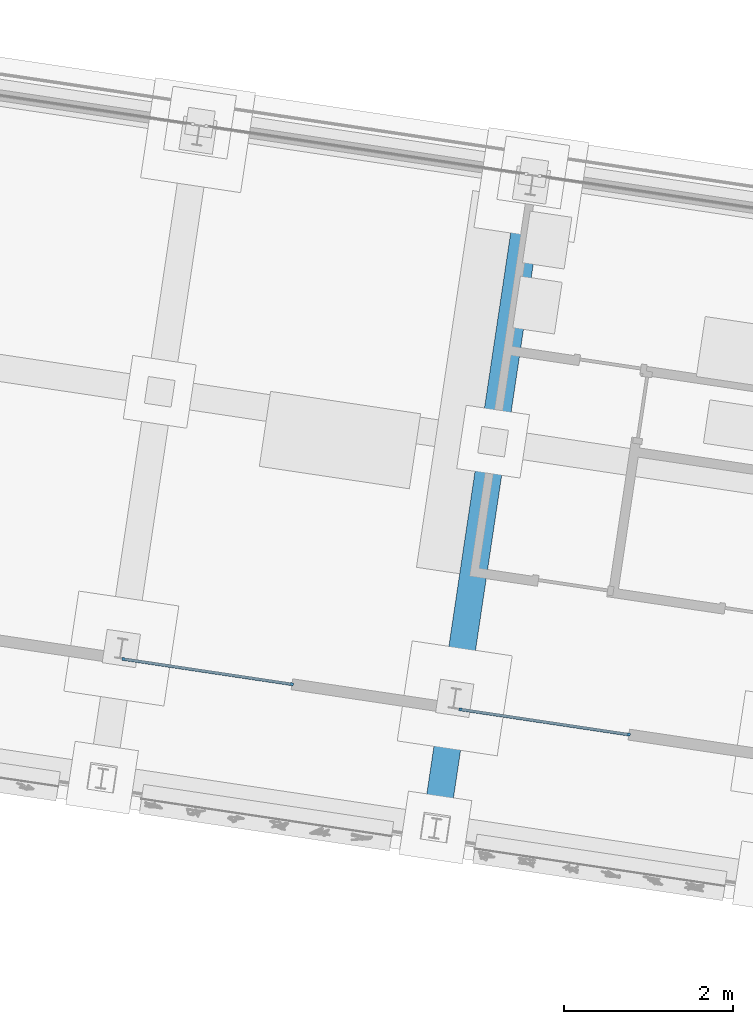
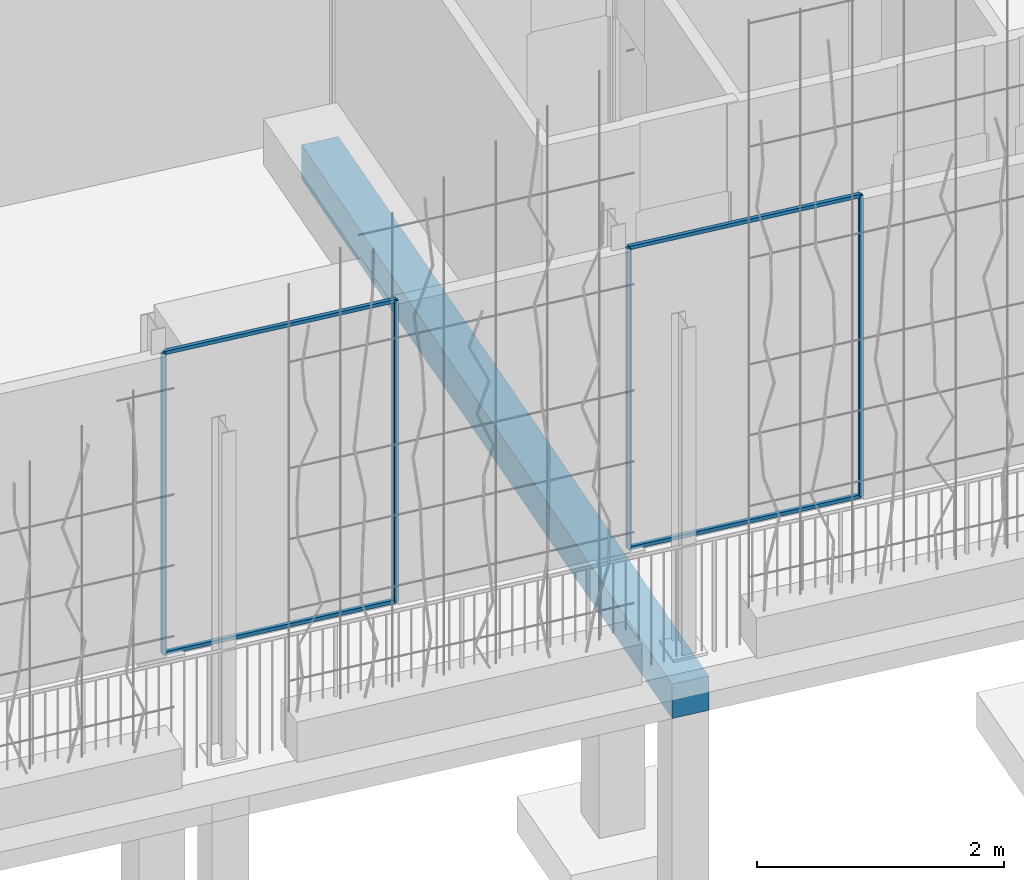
# One storey, part 65 of 143: 8 members, 1 beam, 1 element without a shape of its own.
"""IFC4 building model written with IfcOpenShell, lengths in metres."""

import ifcopenshell
import ifcopenshell.guid

model = None  # the IFC model being written
_history = None  # IfcOwnerHistory: only IFC2X3 demands one
_inside = {}  # id of a spatial element -> (the spatial element, [elements in it])
_under = {}  # id of a project, library or spatial element -> (it, [spatial elements below it])
_declared = {}  # id of a project -> (the project, [libraries it declares])
_typed = {}  # id of a type object -> (the type object, [elements of that type])
_made_of = {}  # id of a material, layer set ... -> (it, [elements and type objects made of it])


def new_model(schema):
    """Start an empty IFC model of exactly this schema.

    Asked for "IFC4X3", IfcOpenShell would pick the latest addendum, in which some entities
    have other attributes; the version numbers below select the first issue.
    IFC2X3 requires an IfcOwnerHistory on every rooted entity: one is made here for all.
    """
    global model, _history
    if schema == "IFC4X3":
        model = ifcopenshell.file(schema_version=(4, 3, 0, 0))
    else:
        model = ifcopenshell.file(schema=schema)
    _inside.clear()
    _under.clear()
    _declared.clear()
    _typed.clear()
    _made_of.clear()
    _history = None
    if model.schema == "IFC2X3":
        org = make("IfcOrganization", Name="unknown")
        user = make(
            "IfcPersonAndOrganization",
            ThePerson=make("IfcPerson", FamilyName="unknown"),
            TheOrganization=org,
        )
        app = make(
            "IfcApplication",
            ApplicationDeveloper=org,
            Version="unknown",
            ApplicationFullName="unknown",
            ApplicationIdentifier="unknown",
        )
        _history = make(
            "IfcOwnerHistory",
            OwningUser=user,
            OwningApplication=app,
            ChangeAction="ADDED",
            CreationDate=0,
        )
    return model


def make(cls, **values):
    """One entity of the class cls with the attributes given. An attribute that is None is left unset."""
    return model.create_entity(
        cls, **{name: value for name, value in values.items() if value is not None}
    )


def rooted(cls, **values):
    """An entity with a GlobalId (a new one), such as an element, a storey or a relation."""
    return make(cls, GlobalId=ifcopenshell.guid.new(), OwnerHistory=_history, **values)


def si_unit(unit_type, name, prefix=None):
    """IfcSIUnit, for example si_unit("LENGTHUNIT", "METRE", prefix="MILLI")."""
    return make("IfcSIUnit", UnitType=unit_type, Prefix=prefix, Name=name)


def assignment(units):
    """IfcUnitAssignment: the units of a project."""
    return None if units is None else make("IfcUnitAssignment", Units=units)


def point(xyz):
    """IfcCartesianPoint."""
    return None if xyz is None else make("IfcCartesianPoint", Coordinates=xyz)


def direction(xyz):
    """IfcDirection."""
    return None if xyz is None else make("IfcDirection", DirectionRatios=xyz)


def frame(location, z_axis=None, x_axis=None):
    """IfcAxis2Placement3D, a coordinate frame: its origin and axes. An axis left out is left unset."""
    return make(
        "IfcAxis2Placement3D",
        Location=point(location),
        Axis=direction(z_axis),
        RefDirection=direction(x_axis),
    )


def origin_with_axes():
    """The frame at (0, 0, 0) with the z axis (0, 0, 1) and the x axis (1, 0, 0) written out."""
    return frame((0.0, 0.0, 0.0), z_axis=(0.0, 0.0, 1.0), x_axis=(1.0, 0.0, 0.0))


def place(relative_to, where):
    """IfcLocalPlacement: puts the frame where relative to a parent placement (None: the world)."""
    return make(
        "IfcLocalPlacement", PlacementRelTo=relative_to, RelativePlacement=where
    )


def context(
    kind, dimensions, precision=None, world=None, true_north=None, identifier=None
):
    """IfcGeometricRepresentationContext, for example the 3D "Model" context."""
    return make(
        "IfcGeometricRepresentationContext",
        ContextIdentifier=identifier,
        ContextType=kind,
        CoordinateSpaceDimension=dimensions,
        Precision=precision,
        WorldCoordinateSystem=world,
        TrueNorth=true_north,
    )


def subcontext(parent, identifier, kind, view, scale=None):
    """IfcGeometricRepresentationSubContext, for example "Body" below "Model"."""
    return make(
        "IfcGeometricRepresentationSubContext",
        ContextIdentifier=identifier,
        ContextType=kind,
        ParentContext=parent,
        TargetScale=scale,
        TargetView=view,
    )


def project(units=None, contexts=None):
    """IfcProject with its units and contexts."""
    return rooted(
        "IfcProject",
        Name="project",
        RepresentationContexts=contexts,
        UnitsInContext=assignment(units),
    )


def spatial(cls, under=None, at=None, **own):
    """A site, building, storey or space (cls), placed at a placement, below another one or the project."""
    s = rooted(cls, ObjectPlacement=at, **own)
    if under is not None:
        _under.setdefault(under.id(), (under, []))[1].append(s)
    return s


def polyline(points):
    """IfcPolyline through the points."""
    return make("IfcPolyline", Points=[point(p) for p in points])


def profile(cls, at=None, kind="AREA", **sizes):
    """A parametric profile (cls). Its sizes go by their IFC names, for example OverallWidth=200.0."""
    return make(cls, ProfileType=kind, Position=at, **sizes)


def rectangle(**sizes):
    """IfcRectangleProfileDef."""
    return profile("IfcRectangleProfileDef", **sizes)


def outline(outer, holes=None, kind="AREA"):
    """IfcArbitraryClosedProfileDef: a profile drawn as a closed curve; with holes, ...WithVoids."""
    if holes is None:
        return make("IfcArbitraryClosedProfileDef", ProfileType=kind, OuterCurve=outer)
    return make(
        "IfcArbitraryProfileDefWithVoids",
        ProfileType=kind,
        OuterCurve=outer,
        InnerCurves=holes,
    )


def extrude(swept, where, along, depth):
    """IfcExtrudedAreaSolid: the profile swept, set in the frame where, extruded along a direction by depth."""
    return make(
        "IfcExtrudedAreaSolid",
        SweptArea=swept,
        Position=where,
        ExtrudedDirection=direction(along),
        Depth=depth,
    )


def shape(context_of_items, identifier, shape_type, items):
    """IfcShapeRepresentation: the items that make up one representation, for example the "Body"."""
    return make(
        "IfcShapeRepresentation",
        ContextOfItems=context_of_items,
        RepresentationIdentifier=identifier,
        RepresentationType=shape_type,
        Items=items,
    )


def material(Name=None, Category=None):
    """IfcMaterial."""
    return make("IfcMaterial", Name=Name, Category=Category)


def material_profile(
    of_material, cross_section, Name=None, Category=None, Priority=None
):
    """IfcMaterialProfile: a cross section and its material."""
    return make(
        "IfcMaterialProfile",
        Name=Name,
        Material=of_material,
        Profile=cross_section,
        Priority=Priority,
        Category=Category,
    )


def profile_set(profiles, Name=None, composite=None):
    """IfcMaterialProfileSet."""
    return make(
        "IfcMaterialProfileSet",
        Name=Name,
        MaterialProfiles=profiles,
        CompositeProfile=composite,
    )


def profile_usage(for_profile_set, cardinal=None, extent=None):
    """IfcMaterialProfileSetUsage: how a profile set lies along its element."""
    return make(
        "IfcMaterialProfileSetUsage",
        ForProfileSet=for_profile_set,
        CardinalPoint=cardinal,
        ReferenceExtent=extent,
    )


def made_of(thing, what):
    """Note that an element or type object is made of a material, layer set ...; save() writes the relation."""
    if what is not None:
        _made_of.setdefault(what.id(), (what, []))[1].append(thing)
    return thing


def type_object(cls, material=None, **own):
    """A type object (cls), such as IfcWallType, which elements share."""
    return made_of(rooted(cls, **own), material)


def element(
    cls,
    number,
    at=None,
    inside=None,
    cuts=None,
    type_object=None,
    material=None,
    context=None,
    identifier="Body",
    shape_type=None,
    held_by="IfcProductDefinitionShape",
    body=None,
    shapes=None,
    **own,
):
    """One element of the class cls, such as IfcWall. Its Tag is "e" and its number.

    at: its placement. inside: the storey or other place that contains it. cuts: it is an
    opening in that element (IfcRelVoidsElement). A single representation is given by context,
    identifier, shape_type and body (its items); several are given by shapes. held_by: the class
    of the entity that holds the representations. save() writes the other relations.
    """
    e = rooted(cls, Tag="e%d" % number, ObjectPlacement=at, **own)
    if body is not None:
        shapes = [shape(context, identifier, shape_type, body)]
    if shapes is not None:
        e.Representation = make(held_by, Representations=shapes)
    if inside is not None:
        _inside.setdefault(inside.id(), (inside, []))[1].append(e)
    if cuts is not None:
        rooted(
            "IfcRelVoidsElement", RelatingBuildingElement=cuts, RelatedOpeningElement=e
        )
    if type_object is not None:
        _typed.setdefault(type_object.id(), (type_object, []))[1].append(e)
    return made_of(e, material)


def aggregate(whole, parts):
    """IfcRelAggregates: a whole, such as a stair, and the parts it consists of."""
    return rooted("IfcRelAggregates", RelatingObject=whole, RelatedObjects=parts)


def save(model, path):
    """Write the relations noted so far, then the file.

    IfcRelAggregates (storeys below a building ...), IfcRelContainedInSpatialStructure (elements
    in a storey), IfcRelDefinesByType, IfcRelAssociatesMaterial and IfcRelDeclares: one each for
    every whole, place, type object, material and project.
    """
    for whole, parts in _under.values():
        aggregate(whole, parts)
    for where, things in _inside.values():
        rooted(
            "IfcRelContainedInSpatialStructure",
            RelatedElements=things,
            RelatingStructure=where,
        )
    for kind, things in _typed.values():
        rooted("IfcRelDefinesByType", RelatedObjects=things, RelatingType=kind)
    for what, things in _made_of.values():
        rooted("IfcRelAssociatesMaterial", RelatedObjects=things, RelatingMaterial=what)
    for by, libraries in _declared.values():
        rooted("IfcRelDeclares", RelatingContext=by, RelatedDefinitions=libraries)
    model.write(path)


model = new_model("IFC4")

# Units and contexts
model_context = context("Model", 3, precision=1e-05, world=origin_with_axes(), true_north=direction((0.0, 1.0)))
body_context = subcontext(model_context, "Body", "Model", "MODEL_VIEW")
ifc_project = project(units=[si_unit("VOLUMEUNIT", "CUBIC_METRE"), si_unit("LENGTHUNIT", "METRE"), si_unit("AREAUNIT", "SQUARE_METRE")], contexts=[model_context])

# Site, building, storey
site_placement = place(None, origin_with_axes())
site = spatial("IfcSite", under=ifc_project, at=site_placement, Name="Lares · Rua das Mercês · artigo 4771")
building_placement = place(site_placement, frame((15.0, 9.7, 15.8), z_axis=(0.0, 0.0, 1.0), x_axis=(0.989015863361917, -0.147809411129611, 0.0)))
building = spatial("IfcBuilding", under=site, at=building_placement, Name="Casa Sobreposta")
storey_placement = place(building_placement, origin_with_axes())
storey = spatial("IfcBuildingStorey", under=building, at=storey_placement, Name="00 · Habitação e estacionamento", Elevation=15.8)

# Members
ifc_material_1 = material(Name="Aço pintado / Stahl lackiert", Category="steel")
ifc_material_profile = material_profile(ifc_material_1, rectangle(XDim=0.035, YDim=0.035))
ifc_profile_set = profile_set([ifc_material_profile], Name="R0.035")
ifc_profile_usage_1 = profile_usage(ifc_profile_set)
member_type = type_object("IfcMemberType", Name="R0.035 / steel", PredefinedType="NOTDEFINED", material=ifc_profile_set)
member_1_placement = place(storey_placement, frame((4.04266666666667, 0.0, 0.0), z_axis=(0.0, 0.0, 1.0), x_axis=(1.0, 0.0, 0.0)))
element("IfcMember", 1, at=member_1_placement, inside=storey, type_object=member_type, material=ifc_profile_usage_1, Name="Folha de correr sul 2 · montante", context=body_context, shape_type="SweptSolid", body=[
    extrude(rectangle(XDim=0.035, YDim=0.035), origin_with_axes(), (0.0, 0.0, 1.0), 2.968),
])
ifc_profile_usage_2 = profile_usage(ifc_profile_set)
member_2_placement = place(storey_placement, frame((6.064, 0.0, 0.0), z_axis=(0.0, 0.0, 1.0), x_axis=(1.0, 0.0, 0.0)))
element("IfcMember", 2, at=member_2_placement, inside=storey, type_object=member_type, material=ifc_profile_usage_2, Name="Folha de correr sul 2 · montante", context=body_context, shape_type="SweptSolid", body=[
    extrude(rectangle(XDim=0.035, YDim=0.035), origin_with_axes(), (0.0, 0.0, 1.0), 2.968),
])
ifc_profile_usage_3 = profile_usage(ifc_profile_set)
member_3_placement = place(storey_placement, frame((4.04266666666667, 0.0, 0.0), z_axis=(1.0, 0.0, 0.0), x_axis=(0.0, -1.0, 0.0)))
element("IfcMember", 3, at=member_3_placement, inside=storey, type_object=member_type, material=ifc_profile_usage_3, Name="Folha de correr sul 2 · travessa", context=body_context, shape_type="SweptSolid", body=[
    extrude(rectangle(XDim=0.035, YDim=0.035), origin_with_axes(), (0.0, 0.0, 1.0), 2.02133333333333),
])
ifc_profile_usage_4 = profile_usage(ifc_profile_set)
member_4_placement = place(storey_placement, frame((4.04266666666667, 0.0, 2.968), z_axis=(1.0, 0.0, 0.0), x_axis=(0.0, -1.0, 0.0)))
element("IfcMember", 4, at=member_4_placement, inside=storey, type_object=member_type, material=ifc_profile_usage_4, Name="Folha de correr sul 2 · travessa", context=body_context, shape_type="SweptSolid", body=[
    extrude(rectangle(XDim=0.035, YDim=0.035), origin_with_axes(), (0.0, 0.0, 1.0), 2.02133333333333),
])
ifc_profile_usage_5 = profile_usage(ifc_profile_set)
member_5_placement = place(storey_placement, frame((8.08533333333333, 0.0, 0.0), z_axis=(0.0, 0.0, 1.0), x_axis=(1.0, 0.0, 0.0)))
element("IfcMember", 5, at=member_5_placement, inside=storey, type_object=member_type, material=ifc_profile_usage_5, Name="Folha de correr sul 4 · montante", context=body_context, shape_type="SweptSolid", body=[
    extrude(rectangle(XDim=0.035, YDim=0.035), origin_with_axes(), (0.0, 0.0, 1.0), 2.968),
])
ifc_profile_usage_6 = profile_usage(ifc_profile_set)
member_6_placement = place(storey_placement, frame((10.1066666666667, 0.0, 0.0), z_axis=(0.0, 0.0, 1.0), x_axis=(1.0, 0.0, 0.0)))
element("IfcMember", 6, at=member_6_placement, inside=storey, type_object=member_type, material=ifc_profile_usage_6, Name="Folha de correr sul 4 · montante", context=body_context, shape_type="SweptSolid", body=[
    extrude(rectangle(XDim=0.035, YDim=0.035), origin_with_axes(), (0.0, 0.0, 1.0), 2.968),
])
ifc_profile_usage_7 = profile_usage(ifc_profile_set)
member_7_placement = place(storey_placement, frame((8.08533333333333, 0.0, 0.0), z_axis=(1.0, 0.0, 0.0), x_axis=(0.0, -1.0, 0.0)))
element("IfcMember", 7, at=member_7_placement, inside=storey, type_object=member_type, material=ifc_profile_usage_7, Name="Folha de correr sul 4 · travessa", context=body_context, shape_type="SweptSolid", body=[
    extrude(rectangle(XDim=0.035, YDim=0.035), origin_with_axes(), (0.0, 0.0, 1.0), 2.02133333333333),
])
ifc_profile_usage_8 = profile_usage(ifc_profile_set)
member_8_placement = place(storey_placement, frame((8.08533333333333, 0.0, 2.968), z_axis=(1.0, 0.0, 0.0), x_axis=(0.0, -1.0, 0.0)))
element("IfcMember", 8, at=member_8_placement, inside=storey, type_object=member_type, material=ifc_profile_usage_8, Name="Folha de correr sul 4 · travessa", context=body_context, shape_type="SweptSolid", body=[
    extrude(rectangle(XDim=0.035, YDim=0.035), origin_with_axes(), (0.0, 0.0, 1.0), 2.02133333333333),
])

# Assembly, beam
assembly_placement = place(storey_placement, origin_with_axes())
assembly = element("IfcElementAssembly", 9, at=assembly_placement, inside=storey, Name="Pódio · terraço, casa térrea e cisterna", ObjectType="CISTERN_PODIUM", PredefinedType="USERDEFINED")
ifc_material_2 = material(Name="Betão armado / Stahlbeton", Category="concrete")
beam_placement = place(assembly_placement, frame((0.0, 0.0, -0.59), z_axis=(0.0, 0.0, 1.0), x_axis=(1.0, 0.0, 0.0)))
beam = element("IfcBeam", 10, at=beam_placement, material=ifc_material_2, Name="Pódio suspenso · viga transversal", context=body_context, shape_type="SweptSolid", body=[
    extrude(outline(polyline([(8.16, -1.59), (8.16, 6.59), (7.84, 6.59), (7.84, -1.59), (8.16, -1.59)])), origin_with_axes(), (0.0, 0.0, 1.0), 0.34),
])
aggregate(assembly, [beam])

save(model, "model.ifc")
